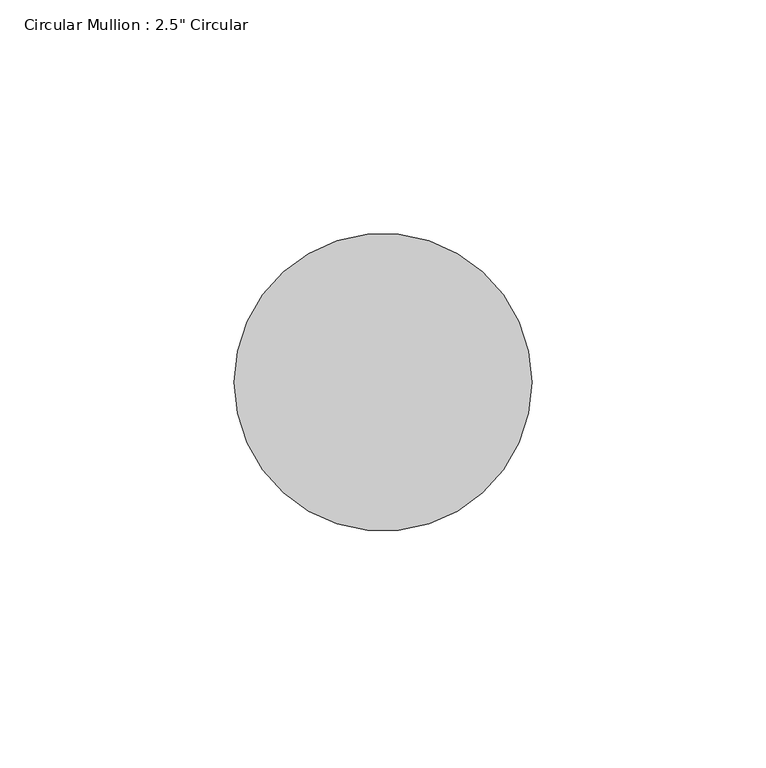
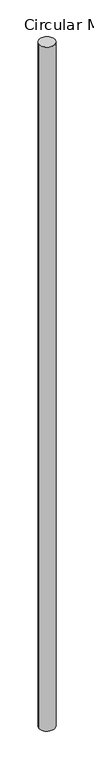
"""IFC4 building model written with IfcOpenShell, lengths in millimetres: member geometry."""

from ifc_helpers import new_model, si_unit, point, frame, origin, origin_2d, place, context, project, spatial, circle_curve, trimmed, segment, composite_curve, outline, extrude, source, transform, mapped, element, save


def member_737e6903(model_context):
    return source(origin(), model_context, "Body", "SweptSolid", [
        extrude(outline(composite_curve([segment(trimmed(circle_curve(origin_2d(), 31.75), [point((31.75, 0.0))], [point((-31.75, 0.0))], False, "CARTESIAN"), True, "CONTINUOUS"), segment(trimmed(circle_curve(origin_2d(), 31.75), [point((-31.75, 0.0))], [point((31.75, 0.0))], False, "CARTESIAN"), True, "CONTINUOUS")], self_intersect=False)), frame((0.0, 0.0, -2933.3045271), z_axis=(0.0, 0.0, 1.0), x_axis=(1.0, 0.0, 0.0)), (0.0, 0.0, 1.0), 2933.3045271),
    ])


if __name__ == "__main__":
    model = new_model("IFC4")
    model_context = context("Model", 3, world=origin())
    ifc_project = project(units=[si_unit("LENGTHUNIT", "METRE", prefix="MILLI")], contexts=[model_context])
    site = spatial("IfcSite", under=ifc_project)
    building = spatial("IfcBuilding", under=site)
    placement = place(None, origin())
    member_shape = member_737e6903(model_context)
    element("IfcMember", 1, ObjectType="Circular Mullion : 2.5\" Circular", at=placement, inside=building, context=model_context, shape_type="MappedRepresentation", body=[
        mapped(member_shape, transform((0.0, 0.0, 0.0), x_axis=(1.0, 0.0, 0.0), y_axis=(0.0, 1.0, 0.0), z_axis=(0.0, 0.0, 1.0))),
    ])
    save(model, "model.ifc")
